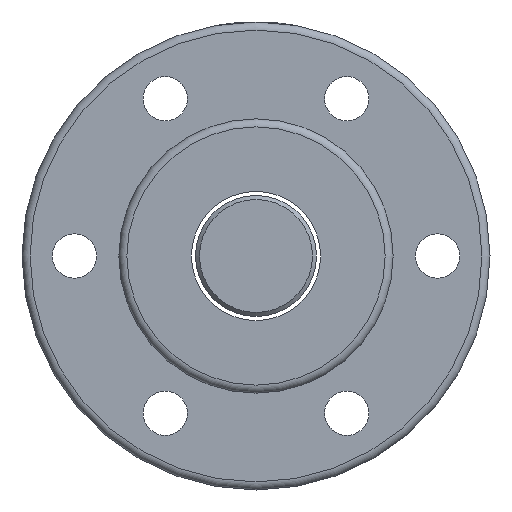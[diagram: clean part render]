
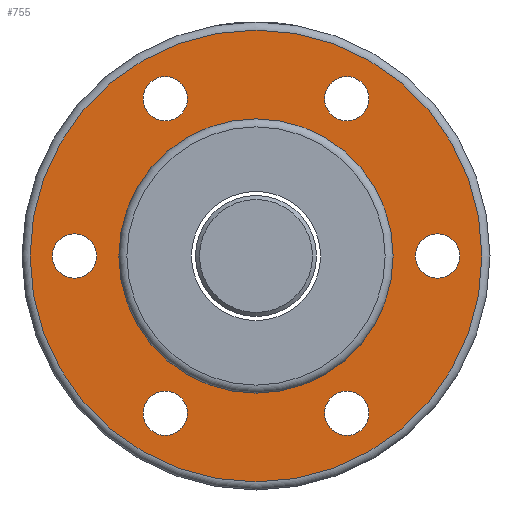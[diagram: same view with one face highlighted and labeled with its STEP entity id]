
A CAD part, left-side view. The second image highlights one B-rep face of the part: STEP entity #755.
In plain terms, the highlighted planar face has unit normal (-1, 0, 0).
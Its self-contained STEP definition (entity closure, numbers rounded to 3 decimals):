
#15 = EDGE_LOOP ( 'NONE', ( #197 ) ) ;
#92 = VERTEX_POINT ( 'NONE', #1688 ) ;
#116 = EDGE_CURVE ( 'NONE', #2297, #2297, #2564, .T. ) ;
#136 = EDGE_LOOP ( 'NONE', ( #955 ) ) ;
#161 = VERTEX_POINT ( 'NONE', #909 ) ;
#193 = CARTESIAN_POINT ( 'NONE',  ( -26.5, 0., 0. ) ) ;
#197 = ORIENTED_EDGE ( 'NONE', *, *, #116, .F. ) ;
#206 = CARTESIAN_POINT ( 'NONE',  ( -26.5, 8.5, -19.486 ) ) ;
#246 = DIRECTION ( 'NONE',  ( 0., -1., 0. ) ) ;
#274 = DIRECTION ( 'NONE',  ( -1., 0., 0. ) ) ;
#277 = CARTESIAN_POINT ( 'NONE',  ( -26.5, -11.25, 19.486 ) ) ;
#281 = EDGE_CURVE ( 'NONE', #1127, #1127, #1419, .T. ) ;
#289 = CIRCLE ( 'NONE', #2011, 2.75 ) ;
#315 = VERTEX_POINT ( 'NONE', #1434 ) ;
#365 = DIRECTION ( 'NONE',  ( -1., 0., 0. ) ) ;
#394 = ORIENTED_EDGE ( 'NONE', *, *, #1074, .F. ) ;
#433 = CARTESIAN_POINT ( 'NONE',  ( -26.5, 17., 0. ) ) ;
#467 = CIRCLE ( 'NONE', #517, 2.75 ) ;
#514 = EDGE_LOOP ( 'NONE', ( #2002 ) ) ;
#515 = CARTESIAN_POINT ( 'NONE',  ( -26.5, 22.5, 0. ) ) ;
#517 = AXIS2_PLACEMENT_3D ( 'NONE', #554, #2693, #1268 ) ;
#554 = CARTESIAN_POINT ( 'NONE',  ( -26.5, 11.25, 19.486 ) ) ;
#597 = FACE_BOUND ( 'NONE', #2794, .T. ) ;
#631 = CARTESIAN_POINT ( 'NONE',  ( -26.5, 22.5, 0. ) ) ;
#635 = DIRECTION ( 'NONE',  ( 0., 1., 0. ) ) ;
#667 = AXIS2_PLACEMENT_3D ( 'NONE', #1302, #1012, #1952 ) ;
#713 = CIRCLE ( 'NONE', #2829, 2.75 ) ;
#742 = EDGE_LOOP ( 'NONE', ( #394 ) ) ;
#755 = ADVANCED_FACE ( 'NONE', ( #1587, #2707, #1816, #2294, #597, #2741, #1055, #2057 ), #1830, .T. ) ;
#784 = AXIS2_PLACEMENT_3D ( 'NONE', #2010, #365, #1536 ) ;
#791 = EDGE_CURVE ( 'NONE', #1338, #1338, #1025, .T. ) ;
#909 = CARTESIAN_POINT ( 'NONE',  ( -26.5, 19.75, 0. ) ) ;
#928 = ORIENTED_EDGE ( 'NONE', *, *, #2754, .F. ) ;
#931 = AXIS2_PLACEMENT_3D ( 'NONE', #193, #2727, #635 ) ;
#955 = ORIENTED_EDGE ( 'NONE', *, *, #281, .T. ) ;
#1012 = DIRECTION ( 'NONE',  ( -1., 0., 0. ) ) ;
#1025 = CIRCLE ( 'NONE', #784, 2.75 ) ;
#1055 = FACE_BOUND ( 'NONE', #136, .T. ) ;
#1074 = EDGE_CURVE ( 'NONE', #1111, #1111, #1767, .T. ) ;
#1111 = VERTEX_POINT ( 'NONE', #1604 ) ;
#1127 = VERTEX_POINT ( 'NONE', #433 ) ;
#1197 = CARTESIAN_POINT ( 'NONE',  ( -26.5, 0., 0. ) ) ;
#1228 = AXIS2_PLACEMENT_3D ( 'NONE', #2573, #274, #246 ) ;
#1268 = DIRECTION ( 'NONE',  ( 0., -1., 0. ) ) ;
#1302 = CARTESIAN_POINT ( 'NONE',  ( -26.5, -22.5, 0. ) ) ;
#1338 = VERTEX_POINT ( 'NONE', #2844 ) ;
#1419 = CIRCLE ( 'NONE', #3003, 17. ) ;
#1434 = CARTESIAN_POINT ( 'NONE',  ( -26.5, -14., 19.486 ) ) ;
#1474 = ORIENTED_EDGE ( 'NONE', *, *, #2073, .F. ) ;
#1536 = DIRECTION ( 'NONE',  ( 0., -1., 0. ) ) ;
#1573 = AXIS2_PLACEMENT_3D ( 'NONE', #631, #2771, #3001 ) ;
#1587 = FACE_BOUND ( 'NONE', #514, .T. ) ;
#1604 = CARTESIAN_POINT ( 'NONE',  ( -26.5, 28., 0. ) ) ;
#1653 = DIRECTION ( 'NONE',  ( 0., -1., 0. ) ) ;
#1688 = CARTESIAN_POINT ( 'NONE',  ( -26.5, -25.25, 0. ) ) ;
#1696 = EDGE_LOOP ( 'NONE', ( #2982 ) ) ;
#1767 = CIRCLE ( 'NONE', #931, 28. ) ;
#1787 = EDGE_CURVE ( 'NONE', #161, #161, #289, .T. ) ;
#1816 = FACE_BOUND ( 'NONE', #15, .T. ) ;
#1830 = PLANE ( 'NONE',  #1573 ) ;
#1903 = DIRECTION ( 'NONE',  ( 1., 0., 0. ) ) ;
#1952 = DIRECTION ( 'NONE',  ( 0., -1., 0. ) ) ;
#1983 = CIRCLE ( 'NONE', #667, 2.75 ) ;
#2002 = ORIENTED_EDGE ( 'NONE', *, *, #1787, .F. ) ;
#2010 = CARTESIAN_POINT ( 'NONE',  ( -26.5, -11.25, -19.486 ) ) ;
#2011 = AXIS2_PLACEMENT_3D ( 'NONE', #515, #2657, #1653 ) ;
#2057 = FACE_OUTER_BOUND ( 'NONE', #742, .T. ) ;
#2073 = EDGE_CURVE ( 'NONE', #315, #315, #713, .T. ) ;
#2106 = DIRECTION ( 'NONE',  ( 0., -1., 0. ) ) ;
#2188 = CARTESIAN_POINT ( 'NONE',  ( -26.5, 8.5, 19.486 ) ) ;
#2294 = FACE_BOUND ( 'NONE', #1696, .T. ) ;
#2297 = VERTEX_POINT ( 'NONE', #206 ) ;
#2315 = ORIENTED_EDGE ( 'NONE', *, *, #2391, .F. ) ;
#2379 = VERTEX_POINT ( 'NONE', #2188 ) ;
#2391 = EDGE_CURVE ( 'NONE', #2379, #2379, #467, .T. ) ;
#2564 = CIRCLE ( 'NONE', #1228, 2.75 ) ;
#2573 = CARTESIAN_POINT ( 'NONE',  ( -26.5, 11.25, -19.486 ) ) ;
#2587 = DIRECTION ( 'NONE',  ( 0., 1., 0. ) ) ;
#2651 = DIRECTION ( 'NONE',  ( -1., 0., 0. ) ) ;
#2657 = DIRECTION ( 'NONE',  ( -1., 0., 0. ) ) ;
#2693 = DIRECTION ( 'NONE',  ( -1., 0., 0. ) ) ;
#2707 = FACE_BOUND ( 'NONE', #2930, .T. ) ;
#2727 = DIRECTION ( 'NONE',  ( 1., 0., 0. ) ) ;
#2741 = FACE_BOUND ( 'NONE', #2867, .T. ) ;
#2754 = EDGE_CURVE ( 'NONE', #92, #92, #1983, .T. ) ;
#2771 = DIRECTION ( 'NONE',  ( -1., 0., 0. ) ) ;
#2794 = EDGE_LOOP ( 'NONE', ( #1474 ) ) ;
#2829 = AXIS2_PLACEMENT_3D ( 'NONE', #277, #2651, #2106 ) ;
#2844 = CARTESIAN_POINT ( 'NONE',  ( -26.5, -14., -19.486 ) ) ;
#2867 = EDGE_LOOP ( 'NONE', ( #2315 ) ) ;
#2930 = EDGE_LOOP ( 'NONE', ( #928 ) ) ;
#2982 = ORIENTED_EDGE ( 'NONE', *, *, #791, .F. ) ;
#3001 = DIRECTION ( 'NONE',  ( 0., 0., 1. ) ) ;
#3003 = AXIS2_PLACEMENT_3D ( 'NONE', #1197, #1903, #2587 ) ;
